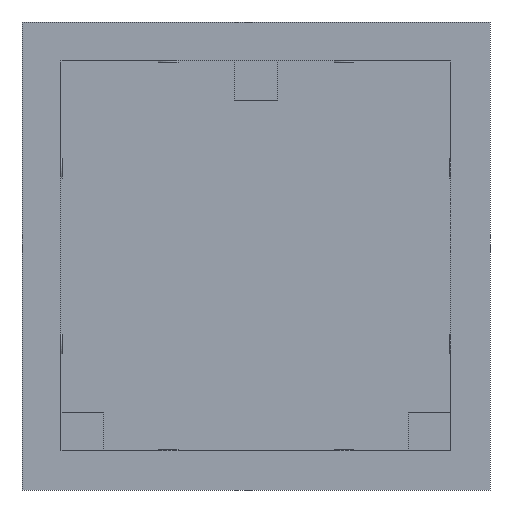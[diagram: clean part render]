
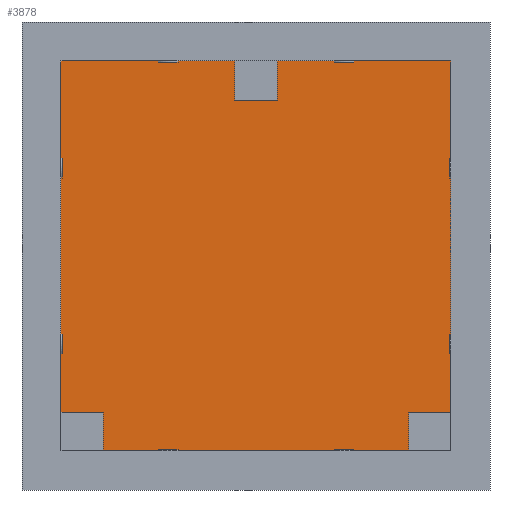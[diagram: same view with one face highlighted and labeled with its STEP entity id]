
A CAD part, front view. The second image highlights one B-rep face of the part: STEP entity #3878.
In plain terms, the highlighted planar face has unit normal (0, -1, 0).
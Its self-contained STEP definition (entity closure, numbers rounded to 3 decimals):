
#3571=DIRECTION('',(0.,0.,-1.));
#3572=VECTOR('',#3571,696.);
#3573=CARTESIAN_POINT('',(-348.,-2.,348.));
#3574=LINE('',#3573,#3572);
#3575=DIRECTION('',(-1.,0.,0.));
#3576=VECTOR('',#3575,696.);
#3577=CARTESIAN_POINT('',(348.,-2.,348.));
#3578=LINE('',#3577,#3576);
#3579=DIRECTION('',(0.,0.,1.));
#3580=VECTOR('',#3579,696.);
#3581=CARTESIAN_POINT('',(348.,-2.,-348.));
#3582=LINE('',#3581,#3580);
#3583=DIRECTION('',(1.,0.,0.));
#3584=VECTOR('',#3583,696.);
#3585=CARTESIAN_POINT('',(-348.,-2.,-348.));
#3586=LINE('',#3585,#3584);
#3587=CARTESIAN_POINT('',(0.,-2.,270.));
#3588=DIRECTION('',(0.,1.,0.));
#3589=DIRECTION('',(-1.,0.,0.));
#3590=AXIS2_PLACEMENT_3D('',#3587,#3588,#3589);
#3592=CARTESIAN_POINT('',(0.,-2.,270.));
#3593=DIRECTION('',(0.,1.,0.));
#3594=DIRECTION('',(1.,0.,0.));
#3595=AXIS2_PLACEMENT_3D('',#3592,#3593,#3594);
#3597=CARTESIAN_POINT('',(-270.,-2.,-270.));
#3598=DIRECTION('',(0.,1.,0.));
#3599=DIRECTION('',(1.,0.,0.));
#3600=AXIS2_PLACEMENT_3D('',#3597,#3598,#3599);
#3602=CARTESIAN_POINT('',(-270.,-2.,-270.));
#3603=DIRECTION('',(0.,1.,0.));
#3604=DIRECTION('',(-1.,0.,0.));
#3605=AXIS2_PLACEMENT_3D('',#3602,#3603,#3604);
#3607=CARTESIAN_POINT('',(270.,-2.,-270.));
#3608=DIRECTION('',(0.,1.,0.));
#3609=DIRECTION('',(1.,0.,0.));
#3610=AXIS2_PLACEMENT_3D('',#3607,#3608,#3609);
#3612=CARTESIAN_POINT('',(270.,-2.,-270.));
#3613=DIRECTION('',(0.,1.,0.));
#3614=DIRECTION('',(-1.,0.,0.));
#3615=AXIS2_PLACEMENT_3D('',#3612,#3613,#3614);
#3661=CARTESIAN_POINT('',(-17.75,-2.,270.));
#3662=CARTESIAN_POINT('',(17.75,-2.,270.));
#3663=VERTEX_POINT('',#3661);
#3664=VERTEX_POINT('',#3662);
#3681=CARTESIAN_POINT('',(-348.,-2.,348.));
#3682=CARTESIAN_POINT('',(-348.,-2.,-348.));
#3683=VERTEX_POINT('',#3681);
#3684=VERTEX_POINT('',#3682);
#3685=CARTESIAN_POINT('',(348.,-2.,-348.));
#3686=VERTEX_POINT('',#3685);
#3687=CARTESIAN_POINT('',(348.,-2.,348.));
#3688=VERTEX_POINT('',#3687);
#3697=CARTESIAN_POINT('',(-252.25,-2.,-270.));
#3698=CARTESIAN_POINT('',(-287.75,-2.,-270.));
#3699=VERTEX_POINT('',#3697);
#3700=VERTEX_POINT('',#3698);
#3701=CARTESIAN_POINT('',(287.75,-2.,-270.));
#3702=CARTESIAN_POINT('',(252.25,-2.,-270.));
#3703=VERTEX_POINT('',#3701);
#3704=VERTEX_POINT('',#3702);
#3847=CARTESIAN_POINT('',(0.,-2.,0.));
#3848=DIRECTION('',(0.,1.,0.));
#3849=DIRECTION('',(0.,0.,-1.));
#3850=AXIS2_PLACEMENT_3D('',#3847,#3848,#3849);
#3851=PLANE('',#3850);
#3852=ORIENTED_EDGE('',*,*,#3837,.F.);
#3854=ORIENTED_EDGE('',*,*,#3853,.F.);
#3856=ORIENTED_EDGE('',*,*,#3855,.F.);
#3858=ORIENTED_EDGE('',*,*,#3857,.F.);
#3859=EDGE_LOOP('',(#3852,#3854,#3856,#3858));
#3860=FACE_OUTER_BOUND('',#3859,.F.);
#3862=ORIENTED_EDGE('',*,*,#3861,.F.);
#3864=ORIENTED_EDGE('',*,*,#3863,.F.);
#3865=EDGE_LOOP('',(#3862,#3864));
#3866=FACE_BOUND('',#3865,.F.);
#3868=ORIENTED_EDGE('',*,*,#3867,.F.);
#3870=ORIENTED_EDGE('',*,*,#3869,.F.);
#3871=EDGE_LOOP('',(#3868,#3870));
#3872=FACE_BOUND('',#3871,.F.);
#3874=ORIENTED_EDGE('',*,*,#3873,.F.);
#3875=ORIENTED_EDGE('',*,*,#3714,.F.);
#3876=EDGE_LOOP('',(#3874,#3875));
#3877=FACE_BOUND('',#3876,.F.);
#3591=CIRCLE('',#3590,17.75);
#3596=CIRCLE('',#3595,17.75);
#3601=CIRCLE('',#3600,17.75);
#3606=CIRCLE('',#3605,17.75);
#3611=CIRCLE('',#3610,17.75);
#3616=CIRCLE('',#3615,17.75);
#3714=EDGE_CURVE('',#3704,#3703,#3616,.T.);
#3837=EDGE_CURVE('',#3683,#3684,#3574,.T.);
#3853=EDGE_CURVE('',#3688,#3683,#3578,.T.);
#3855=EDGE_CURVE('',#3686,#3688,#3582,.T.);
#3857=EDGE_CURVE('',#3684,#3686,#3586,.T.);
#3861=EDGE_CURVE('',#3663,#3664,#3591,.T.);
#3863=EDGE_CURVE('',#3664,#3663,#3596,.T.);
#3867=EDGE_CURVE('',#3699,#3700,#3601,.T.);
#3869=EDGE_CURVE('',#3700,#3699,#3606,.T.);
#3873=EDGE_CURVE('',#3703,#3704,#3611,.T.);
#3878=ADVANCED_FACE('',(#3860,#3866,#3872,#3877),#3851,.F.);
